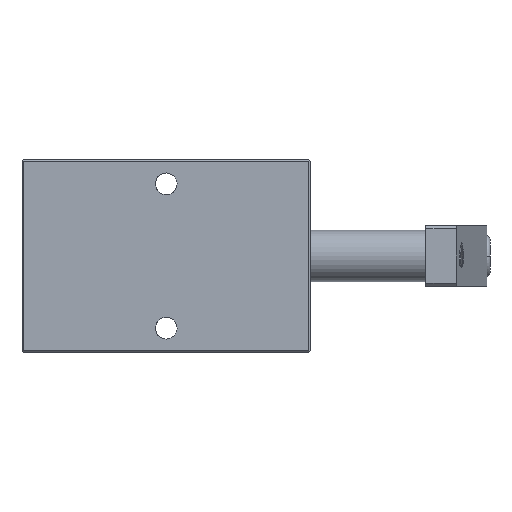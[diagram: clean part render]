
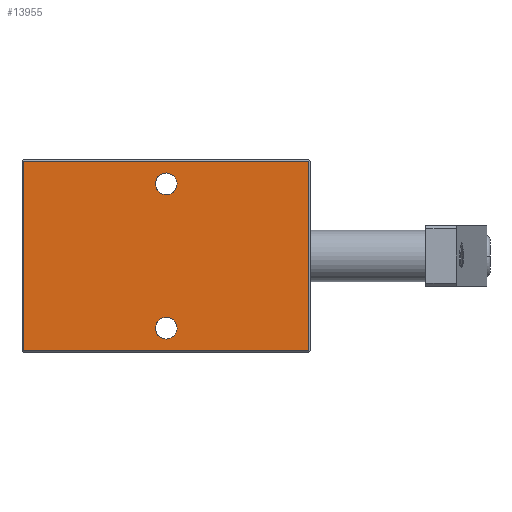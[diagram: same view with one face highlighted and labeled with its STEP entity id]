
A CAD part, front view. The second image highlights one B-rep face of the part: STEP entity #13955.
In plain terms, the highlighted planar face has unit normal (0, -1, 0).
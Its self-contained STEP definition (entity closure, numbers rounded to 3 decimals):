
#496=DIRECTION('',(0.,0.,-1.));
#497=VECTOR('',#496,59.);
#498=CARTESIAN_POINT('',(89.5,-20.,29.5));
#499=LINE('',#498,#497);
#500=DIRECTION('',(-1.,0.,0.));
#501=VECTOR('',#500,89.);
#502=CARTESIAN_POINT('',(89.5,-20.,-29.5));
#503=LINE('',#502,#501);
#504=DIRECTION('',(0.,0.,1.));
#505=VECTOR('',#504,59.);
#506=CARTESIAN_POINT('',(0.5,-20.,-29.5));
#507=LINE('',#506,#505);
#508=DIRECTION('',(-1.,0.,0.));
#509=VECTOR('',#508,89.);
#510=CARTESIAN_POINT('',(89.5,-20.,29.5));
#511=LINE('',#510,#509);
#512=CARTESIAN_POINT('',(45.,-20.,-22.5));
#513=DIRECTION('',(0.,1.,0.));
#514=DIRECTION('',(0.,0.,1.));
#515=AXIS2_PLACEMENT_3D('',#512,#513,#514);
#517=CARTESIAN_POINT('',(45.,-20.,-22.5));
#518=DIRECTION('',(0.,1.,0.));
#519=DIRECTION('',(0.,0.,-1.));
#520=AXIS2_PLACEMENT_3D('',#517,#518,#519);
#522=CARTESIAN_POINT('',(45.,-20.,22.5));
#523=DIRECTION('',(0.,1.,0.));
#524=DIRECTION('',(0.,0.,1.));
#525=AXIS2_PLACEMENT_3D('',#522,#523,#524);
#527=CARTESIAN_POINT('',(45.,-20.,22.5));
#528=DIRECTION('',(0.,1.,0.));
#529=DIRECTION('',(0.,0.,-1.));
#530=AXIS2_PLACEMENT_3D('',#527,#528,#529);
#12795=CARTESIAN_POINT('',(89.5,-20.,29.5));
#12796=CARTESIAN_POINT('',(0.5,-20.,29.5));
#12797=VERTEX_POINT('',#12795);
#12798=VERTEX_POINT('',#12796);
#12823=CARTESIAN_POINT('',(89.5,-20.,-29.5));
#12824=CARTESIAN_POINT('',(0.5,-20.,-29.5));
#12825=VERTEX_POINT('',#12823);
#12826=VERTEX_POINT('',#12824);
#12899=CARTESIAN_POINT('',(45.,-20.,-19.1));
#12900=CARTESIAN_POINT('',(45.,-20.,-25.9));
#12901=VERTEX_POINT('',#12899);
#12902=VERTEX_POINT('',#12900);
#12903=CARTESIAN_POINT('',(45.,-20.,25.9));
#12904=CARTESIAN_POINT('',(45.,-20.,19.1));
#12905=VERTEX_POINT('',#12903);
#12906=VERTEX_POINT('',#12904);
#13930=CARTESIAN_POINT('',(0.,-20.,30.));
#13931=DIRECTION('',(0.,-1.,0.));
#13932=DIRECTION('',(0.,0.,-1.));
#13933=AXIS2_PLACEMENT_3D('',#13930,#13931,#13932);
#13934=PLANE('',#13933);
#13936=ORIENTED_EDGE('',*,*,#13935,.T.);
#13937=ORIENTED_EDGE('',*,*,#13904,.T.);
#13938=ORIENTED_EDGE('',*,*,#13918,.T.);
#13940=ORIENTED_EDGE('',*,*,#13939,.F.);
#13941=EDGE_LOOP('',(#13936,#13937,#13938,#13940));
#13942=FACE_OUTER_BOUND('',#13941,.F.);
#13944=ORIENTED_EDGE('',*,*,#13943,.F.);
#13946=ORIENTED_EDGE('',*,*,#13945,.F.);
#13947=EDGE_LOOP('',(#13944,#13946));
#13948=FACE_BOUND('',#13947,.F.);
#13950=ORIENTED_EDGE('',*,*,#13949,.F.);
#13952=ORIENTED_EDGE('',*,*,#13951,.F.);
#13953=EDGE_LOOP('',(#13950,#13952));
#13954=FACE_BOUND('',#13953,.F.);
#13955=ADVANCED_FACE('',(#13942,#13948,#13954),#13934,.T.);
#516=CIRCLE('',#515,3.4);
#521=CIRCLE('',#520,3.4);
#526=CIRCLE('',#525,3.4);
#531=CIRCLE('',#530,3.4);
#13904=EDGE_CURVE('',#12825,#12826,#503,.T.);
#13918=EDGE_CURVE('',#12826,#12798,#507,.T.);
#13935=EDGE_CURVE('',#12797,#12825,#499,.T.);
#13939=EDGE_CURVE('',#12797,#12798,#511,.T.);
#13943=EDGE_CURVE('',#12901,#12902,#516,.T.);
#13945=EDGE_CURVE('',#12902,#12901,#521,.T.);
#13949=EDGE_CURVE('',#12905,#12906,#526,.T.);
#13951=EDGE_CURVE('',#12906,#12905,#531,.T.);
